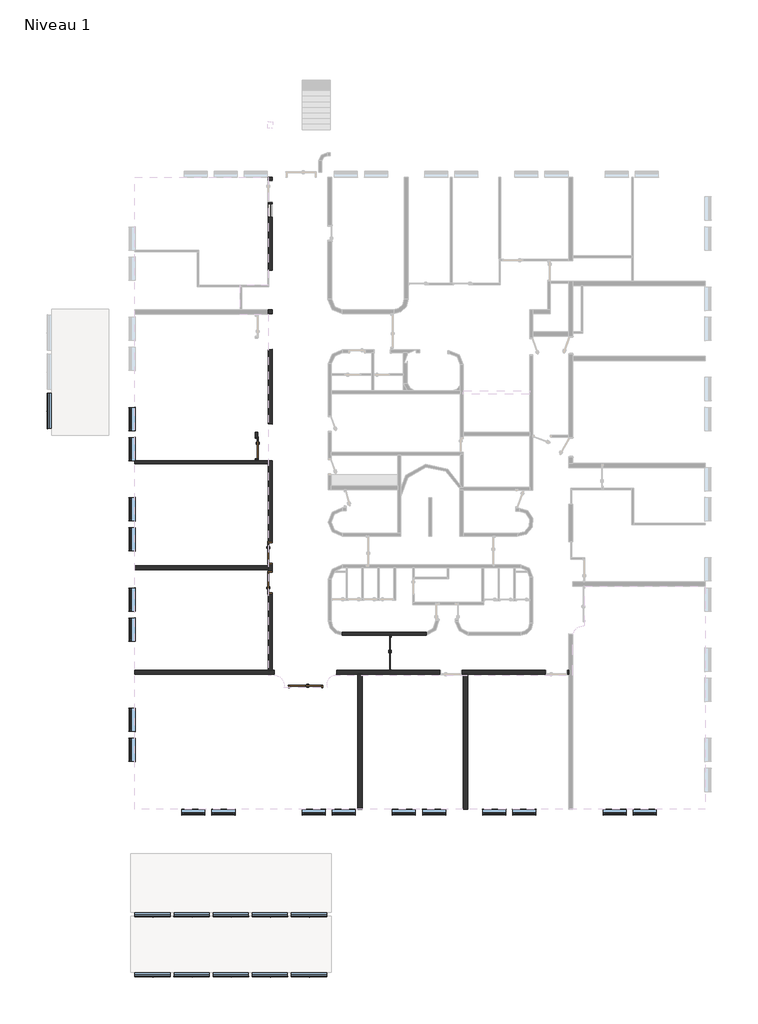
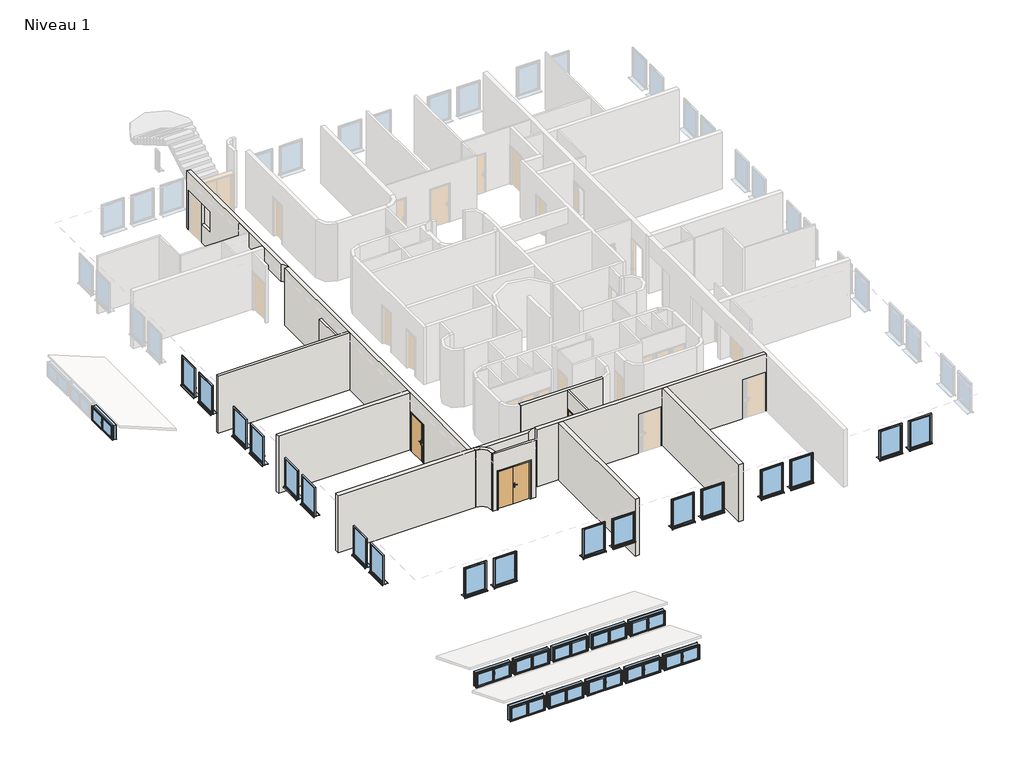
# One storey, part 1 of 5: 29 windows, 11 walls, 5 doors.
"""IFC4 building model written with IfcOpenShell, lengths in millimetres."""

from ifc_helpers import new_model, si_unit, point, frame, frame_2d, origin, place, context, project, spatial, polyline, circle_curve, trimmed, segment, composite_curve, outline, extrude, faceted_brep, transform, mapped, element, save
from ifc_brep_helpers import plane_surface, cylinder_surface, revolved_surface, advanced_brep
from components import door_1_10m_x_2_04m_3b420d45, door_1_10m_x_2_04m_60f23ce3, door_1_10m_x_2_04m_af61bfde, double_r_1_63m_x_2_04m_5d470661, double_r_1_63m_x_2_04m_24f9b1b7, window_115_x_155_cm_24c5beae, window_1750_x_75_784b19aa

model = new_model("IFC4")

# Units and contexts
model_context = context("Model", 3, world=origin())
ifc_project = project(units=[si_unit("LENGTHUNIT", "METRE", prefix="MILLI")], contexts=[model_context])

# Site, building, storey
site = spatial("IfcSite", under=ifc_project)
building = spatial("IfcBuilding", under=site)
storey = spatial("IfcBuildingStorey", under=building, Name="Niveau 1", Elevation=4121.8727639)

# Doors
placement = place(None, origin())
door_1_10m_x_2_04m_shape = door_1_10m_x_2_04m_3b420d45(model_context)
element("IfcDoor", 1, ObjectType="Tierce  160 : 1.10m x 2.04m", at=placement, inside=storey, context=model_context, shape_type="MappedRepresentation", body=[
    mapped(door_1_10m_x_2_04m_shape, transform((-18843.9891705, -8164.1151394, 4121.8727639), x_axis=(7.361836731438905e-11, 1.0, 0.0), y_axis=(-1.0, 7.361836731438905e-11, 0.0), z_axis=(0.0, 0.0, 1.0))),
])
door_1_10m_x_2_04m_2_shape = door_1_10m_x_2_04m_60f23ce3(model_context)
element("IfcDoor", 2, ObjectType="Tierce  160 : 1.10m x 2.04m", at=placement, inside=storey, context=model_context, shape_type="MappedRepresentation", body=[
    mapped(door_1_10m_x_2_04m_2_shape, transform((-19518.1879319, -2959.1151386, 4121.8727639), x_axis=(3.8772042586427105e-11, 1.0, 0.0), y_axis=(-1.0, 3.8772042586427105e-11, 0.0), z_axis=(0.0, 0.0, 1.0))),
])
door_1_10m_x_2_04m_3_shape = door_1_10m_x_2_04m_af61bfde(model_context)
element("IfcDoor", 3, ObjectType="Tierce  160 : 1.10m x 2.04m", at=placement, inside=storey, context=model_context, shape_type="MappedRepresentation", body=[
    mapped(door_1_10m_x_2_04m_3_shape, transform((-18843.9891706, -9654.1151394, 4121.8727639), x_axis=(-7.361836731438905e-11, -1.0, 0.0), y_axis=(1.0, -7.361836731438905e-11, 0.0), z_axis=(0.0, 0.0, 1.0))),
])
double_r_1_63m_x_2_04m_shape = double_r_1_63m_x_2_04m_5d470661(model_context)
element("IfcDoor", 4, ObjectType="Double (R) : 1.63m x 2.04m", at=placement, inside=storey, context=model_context, shape_type="MappedRepresentation", body=[
    mapped(double_r_1_63m_x_2_04m_shape, transform((-17079.3502529, -14837.8529285, 4121.8727639), x_axis=(1.0, 0.0, 0.0), y_axis=(0.0, 1.0, 0.0), z_axis=(0.0, 0.0, 1.0))),
])
double_r_1_63m_x_2_04m_2_shape = double_r_1_63m_x_2_04m_24f9b1b7(model_context)
element("IfcDoor", 5, ObjectType="Double (R) : 1.63m x 2.04m", at=placement, inside=storey, context=model_context, shape_type="MappedRepresentation", body=[
    mapped(double_r_1_63m_x_2_04m_2_shape, transform((-12846.5513349, -13186.7523473, 4121.8727639), x_axis=(0.0, 1.0, 0.0), y_axis=(-1.0, 0.0, 0.0), z_axis=(0.0, 0.0, 1.0))),
])

# Walls
element("IfcWall", 6, ObjectType="@_Générique - Int. 200 mm", at=placement, inside=storey, context=model_context, shape_type="SweptSolid", body=[
    extrude(outline(polyline([(-25593.9891731, -8799.1151394), (-18943.9891706, -8799.1151394), (-18943.9891706, -8999.1151394), (-25593.9891731, -8999.1151394), (-25593.9891731, -8799.1151394)])), frame((0.0, 0.0, 4121.8727639), z_axis=(0.0, 0.0, 1.0), x_axis=(1.0, 0.0, 0.0)), (0.0, 0.0, 1.0), 3045.4355104),
])
element("IfcWall", 7, ObjectType="@_Générique - Int. 120 mm", at=placement, inside=storey, context=model_context, shape_type="Brep", body=[
    faceted_brep([(-19458.1879319, -2149.1151386, 4121.8727639), (-19458.1879319, -2149.1151386, 7167.3082742), (-19458.1879319, -2349.0637014, 7167.3082742), (-19458.1879319, -3574.1151386, 7167.3082742), (-19458.1879319, -3574.1151386, 4121.8727639), (-19458.1879319, -3519.1151386, 4121.8727639), (-19458.1879319, -3519.1151386, 6196.8727639), (-19458.1879319, -2399.1151386, 6196.8727639), (-19458.1879319, -2399.1151386, 4121.8727639), (-19458.1879319, -2349.0637014, 4121.8727639), (-19578.1879319, -2149.1151386, 7167.3082742), (-19578.1879319, -2149.1151386, 4121.8727639), (-19578.1879319, -2399.1151386, 4121.8727639), (-19578.1879319, -2399.1151386, 6196.8727639), (-19578.1879319, -3519.1151386, 6196.8727639), (-19578.1879319, -3519.1151386, 4121.8727639), (-19578.1879319, -3574.1151386, 4121.8727639), (-19578.1879319, -3574.1151386, 7167.3082742)], [[[0, 1, 2, 3, 4, 5, 6, 7, 8, 9]], [[10, 11, 12, 13, 14, 15, 16, 17]], [[11, 0, 9, 8, 12]], [[4, 16, 15, 5]], [[1, 0, 11, 10]], [[3, 2, 1, 10, 17]], [[4, 3, 17, 16]], [[7, 13, 12, 8]], [[13, 7, 6, 14]], [[14, 6, 5, 15]]]),
])
element("IfcWall", 8, ObjectType="@_Générique - Int. 100 mm", at=placement, inside=storey, context=model_context, shape_type="AdvancedBrep", body=[
    advanced_brep(
    [(-15979.135642, -14887.8529285, 7167.3082742), (-18169.2802234, -14887.8529285, 7167.3082742), (-18169.2802234, -14887.8529285, 4121.8727639), (-17929.3502529, -14887.8529285, 4121.8727639), (-17929.3502529, -14887.8529285, 6196.8727639), (-16229.3502529, -14887.8529285, 6196.8727639), (-16229.3502529, -14887.8529285, 4121.8727639), (-15979.135642, -14887.8529285, 4121.8727639), (-18148.1747332, -14787.8529285, 7167.3082742), (-17947.3580921, -14787.8529285, 7167.3082742), (-16201.4770483, -14787.8529285, 7167.3082742), (-16000.6069775, -14787.8529285, 7167.3082742), (-16000.6069775, -14787.8529285, 4121.8727639), (-16201.4770483, -14787.8529285, 4121.8727639), (-16229.3502529, -14787.8529285, 4121.8727639), (-16229.3502529, -14787.8529285, 6196.8727639), (-17929.3502529, -14787.8529285, 6196.8727639), (-17929.3502529, -14787.8529285, 4121.8727639), (-17947.3580921, -14787.8529285, 4121.8727639), (-18148.1747332, -14787.8529285, 4121.8727639)],
    [
        (0, 1),
        (1, 2),
        (2, 3),
        (3, 4),
        (4, 5),
        (5, 6),
        (6, 7),
        (7, 0),
        (8, 9),
        (9, 10),
        (10, 11),
        (11, 12),
        (12, 13),
        (13, 14),
        (14, 15),
        (15, 16),
        (16, 17),
        (17, 18),
        (18, 19),
        (19, 8),
        (2, 19, circle_curve(frame((-18650.3061191, -14734.1028469, 4121.8727639), z_axis=(0.0, 0.0, 1.0), x_axis=(0.976975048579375, -0.21335359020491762, 0.0)), 505.0)),
        (17, 3),
        (12, 7, circle_curve(frame((-15498.6625765, -14732.3838531, 4121.8727639), z_axis=(0.0, 0.0, 1.0), x_axis=(-0.9591390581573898, 0.2829350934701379, 0.0)), 505.0)),
        (6, 14),
        (0, 11, circle_curve(frame((-15498.6625765, -14732.3838531, 7167.3082742), z_axis=(0.0, 0.0, -1.0), x_axis=(-0.9591390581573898, 0.2829350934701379, 0.0)), 505.0)),
        (8, 1, circle_curve(frame((-18650.3061191, -14734.1028469, 7167.3082742), z_axis=(0.0, 0.0, -1.0), x_axis=(0.976975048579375, -0.21335359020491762, 0.0)), 505.0)),
        (5, 15),
        (4, 16),
    ],
    [
        plane_surface(frame((-18622.3785172, -14887.8529285, 4121.8727639), z_axis=(0.0, -1.0, 0.0), x_axis=(1.0, 0.0, 0.0))),
        plane_surface(frame((-18622.3785172, -14787.8529285, 4121.8727639), z_axis=(0.0, 1.0, 0.0), x_axis=(-1.0, 0.0, 0.0))),
        plane_surface(frame((-18054.2684353, -14887.8529285, 4121.8727639), z_axis=(0.0, 0.0, -1.0), x_axis=(0.0, 1.0, 0.0))),
        plane_surface(frame((-25618.9891748, 10570.8848592, 7167.3082742), z_axis=(0.0, 0.0, 1.0), x_axis=(0.0, 1.0, 0.0))),
        plane_surface(frame((-16229.3502529, -16311.8529285, 4121.8727639), z_axis=(-1.0, 0.0, 0.0), x_axis=(0.0, 1.0, 0.0))),
        plane_surface(frame((-16229.3502529, -16311.8529285, 6196.8727639), z_axis=(0.0, 0.0, -1.0), x_axis=(0.0, 1.0, 0.0))),
        plane_surface(frame((-17929.3502529, -16311.8529285, 6196.8727639), z_axis=(1.0, 0.0, 0.0), x_axis=(0.0, 1.0, 0.0))),
        revolved_surface(polyline([(-18156.933719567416, -14841.846409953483, 4121.8727639), (-18156.933719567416, -14841.846409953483, 7167.3082742)]), (-18650.3061191, -14734.1028469, 4121.8727639), (0.0, 0.0, -1.0)),
        revolved_surface(polyline([(-15983.027800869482, -14589.501630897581, 4121.8727639), (-15983.027800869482, -14589.501630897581, 7167.308274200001)]), (-15498.6625765, -14732.3838531, 4121.8727639), (0.0, 0.0, -1.0000000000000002)),
    ],
    [
        (0, [[1, 2, 3, 4, 5, 6, 7, 8]]),
        (1, [[9, 10, 11, 12, 13, 14, 15, 16, 17, 18, 19, 20]]),
        (2, [[21, -19, -18, 22, -3]]),
        (2, [[23, -7, 24, -14, -13]]),
        (3, [[-1, 25, -11, -10, -9, 26]]),
        (4, [[27, -15, -24, -6]]),
        (5, [[-27, -5, 28, -16]]),
        (6, [[-28, -4, -22, -17]]),
        (7, [[-2, -26, -20, -21]]),
        (8, [[-8, -23, -12, -25]]),
    ],
),
])
element("IfcWall", 9, ObjectType="@_Générique - Int. 70 mm", at=placement, inside=storey, context=model_context, shape_type="SweptSolid", body=[
    extrude(outline(polyline([(-14029.1151398, 7167.3082742), (-12269.1151367, 7167.3082742), (-12269.1151367, 4121.8727639), (-12336.7523473, 4121.8727639), (-12336.7523473, 6196.8727639), (-14029.1151398, 6196.8727639), (-14029.1151398, 7167.3082742)])), frame((-12881.5513349, 0.0, 0.0), z_axis=(1.0, 0.0, 0.0), x_axis=(0.0, 1.0, 0.0)), (0.0, 0.0, 1.0), 70.0),
])
element("IfcWall", 10, ObjectType="@_Générique - Int. 200 mm", at=placement, inside=storey, context=model_context, shape_type="SweptSolid", body=[
    extrude(outline(composite_curve([segment(polyline([(-18647.0868744, -14229.1131079), (-18645.8119261, -14029.1171717)]), True, "CONTINUOUS"), segment(trimmed(circle_curve(frame_2d((-18650.3061191, -14734.1028469)), 705.0), [point((-18645.8119261, -14029.1171717))], [point((-17947.3580921, -14787.8529285))], False, "CARTESIAN"), True, "CONTINUOUS"), segment(polyline([(-17947.3580921, -14787.8529285), (-18148.1747332, -14787.8529285)]), True, "CONTINUOUS"), segment(trimmed(circle_curve(frame_2d((-18650.3061191, -14734.1028469)), 505.0), [point((-18148.1747332, -14787.8529285))], [point((-18647.0868744, -14229.1131079))], True, "CARTESIAN"), True, "CONTINUOUS")], self_intersect=False)), frame((0.0, 0.0, 4121.8727639), z_axis=(0.0, 0.0, 1.0), x_axis=(1.0, 0.0, 0.0)), (0.0, 0.0, 1.0), 3045.4355104),
])
element("IfcWall", 11, ObjectType="Ext. Voile BA 150", at=placement, inside=storey, context=model_context, shape_type="Brep", body=[
    faceted_brep([(-18943.9891702, -3574.1151386, 7167.3082742), (-18943.9891702, -3574.1151386, 6252.8724014), (-18943.9891702, -3574.1151386, 4121.8727639), (-19458.1879319, -3574.1151386, 4121.8727639), (-19578.1879319, -3574.1151386, 4121.8727639), (-25593.9891731, -3574.1151386, 4121.8727639), (-25593.9891731, -3574.1151386, 7167.3082742), (-19578.1879319, -3574.1151386, 7167.3082742), (-19458.1879319, -3574.1151386, 7167.3082742), (-18943.9891702, -3724.1151386, 4121.8727639), (-18943.9891702, -3724.1151386, 7167.3082742), (-25593.9891731, -3724.1151386, 7167.3082742), (-25593.9891731, -3724.1151386, 4121.8727639)], [[[0, 1, 2, 3, 4, 5, 6, 7, 8]], [[9, 10, 11, 12]], [[5, 4, 3, 2, 9, 12]], [[6, 5, 12, 11]], [[0, 8, 7, 6, 11, 10]], [[0, 10, 9, 2, 1]]]),
])
element("IfcWall", 12, ObjectType="Ext. Voile BA 150", at=placement, inside=storey, context=model_context, shape_type="Brep", body=[
    faceted_brep([(-11059.3852226, -12119.1151369, 4121.8727639), (-15243.9891688, -12119.1151366, 4121.8727639), (-15243.9891688, -12119.1151366, 7167.3082742), (-11059.3852226, -12119.1151369, 7167.3082742), (-11053.2032702, -12269.1151369, 4121.8727639), (-11053.2032702, -12269.1151369, 7167.3082742), (-12811.5513349, -12269.1151367, 7167.3082742), (-12881.5513349, -12269.1151367, 7167.3082742), (-15243.9891688, -12269.1151366, 7167.3082742), (-15243.9891688, -12269.1151366, 4121.8727639), (-12881.5513349, -12269.1151367, 4121.8727639), (-12811.5513349, -12269.1151367, 4121.8727639)], [[[0, 1, 2, 3]], [[4, 5, 6, 7, 8, 9, 10, 11]], [[3, 2, 8, 7, 6, 5]], [[1, 0, 4, 11, 10, 9]], [[2, 1, 9, 8]], [[0, 3, 5, 4]]]),
])
element("IfcWall", 13, ObjectType="Ext. Voile BA 200", at=placement, inside=storey, context=model_context, shape_type="AdvancedBrep", body=[
    advanced_brep(
    [(-18943.989171, -14029.1151398, 4121.8727639), (-18943.989171, -14029.1151398, 7167.3082742), (-18943.9891706, -8999.1151394, 7167.3082742), (-18943.9891706, -8799.1151394, 7167.3082742), (-18943.9891702, -3724.1151386, 7167.3082742), (-18943.9891702, -3574.1151386, 7167.3082742), (-18943.9891698, 1960.5171079, 7167.3082742), (-18943.9891698, 1960.5171079, 4121.8727639), (-18943.9891701, -1727.5708002, 4121.8727639), (-18943.9891701, -1727.5708002, 6252.8724014), (-18943.9891702, -3574.1151386, 6252.8724014), (-18943.9891702, -3574.1151386, 4121.8727639), (-18943.9891702, -3724.1151386, 4121.8727639), (-18943.9891705, -7604.1151394, 4121.8727639), (-18943.9891705, -7604.1151394, 6196.8727639), (-18943.9891706, -8724.1151394, 6196.8727639), (-18943.9891706, -8724.1151394, 4121.8727639), (-18943.9891706, -8799.1151394, 4121.8727639), (-18943.9891706, -8999.1151394, 4121.8727639), (-18943.9891706, -9094.1151394, 4121.8727639), (-18943.9891706, -9094.1151394, 6196.8727639), (-18943.9891707, -10214.1151394, 6196.8727639), (-18943.9891707, -10214.1151394, 4121.8727639), (-18943.9891692, 10570.8848592, 7167.3082742), (-18943.9891692, 10570.8848592, 4121.8727639), (-18943.9891692, 10415.8848592, 4121.8727639), (-18943.9891692, 10415.8848592, 6196.8727639), (-18943.9891693, 9295.8848592, 6196.8727639), (-18943.9891693, 9295.8848592, 4121.8727639), (-18943.9891695, 5935.4431147, 4121.8727639), (-18943.9891695, 5935.4431147, 6406.2116759), (-18943.9891696, 3960.8848612, 6406.2116759), (-18943.9891696, 3960.8848612, 4121.8727639), (-18943.9891697, 3750.8848612, 4121.8727639), (-18943.9891697, 3750.8848612, 6252.8724014), (-18943.9891698, 2332.3470203, 6252.8724014), (-18943.9891698, 2332.3470203, 7167.3082742), (-18943.9891697, 3740.8848612, 7167.3082742), (-18943.9891696, 3960.8848612, 7167.3082742), (-18943.9891693, 8560.8848592, 5121.8727639), (-18943.9891693, 9240.8848592, 5121.8727639), (-18943.9891693, 9240.8848592, 6206.8727639), (-18943.9891693, 8560.8848592, 6206.8727639), (-18743.989171, -14029.1151398, 7167.3082742), (-18743.989171, -14029.1151398, 4121.8727639), (-18743.9891707, -10214.1151394, 4121.8727639), (-18743.9891707, -10214.1151394, 6196.8727639), (-18743.9891706, -9094.1151394, 6196.8727639), (-18743.9891706, -9094.1151394, 4121.8727639), (-18743.9891706, -8724.1151394, 4121.8727639), (-18743.9891706, -8724.1151394, 6196.8727639), (-18743.9891705, -7604.1151394, 6196.8727639), (-18743.9891705, -7604.1151394, 4121.8727639), (-18743.9891702, -3574.1151387, 4121.8727639), (-18743.9891702, -3574.1151387, 6252.8724014), (-18743.9891701, -1749.0023753, 6252.8724014), (-18743.9891701, -1749.0023753, 4121.8727639), (-18743.9891698, 1988.4437617, 4121.8727639), (-18743.9891698, 1988.4437617, 6252.8724014), (-18743.9891697, 3750.8848612, 6252.8724014), (-18743.9891697, 3750.8848612, 4121.8727639), (-18743.9891696, 3960.8848612, 4121.8727639), (-18743.9891696, 3960.8848612, 6406.2116759), (-18743.9891695, 5935.4431147, 6406.2116759), (-18743.9891695, 5935.4431147, 4121.8727639), (-18743.9891693, 9295.8848592, 4121.8727639), (-18743.9891693, 9295.8848592, 6196.8727639), (-18743.9891692, 10415.8848592, 6196.8727639), (-18743.9891692, 10415.8848592, 4121.8727639), (-18743.9891692, 10570.8848592, 4121.8727639), (-18743.9891692, 10570.8848592, 7167.3082742), (-18743.9891698, 1988.4437617, 7167.3082742), (-18743.9891693, 9240.8848592, 5121.8727639), (-18743.9891693, 8560.8848592, 5121.8727639), (-18743.9891693, 8560.8848592, 6206.8727639), (-18743.9891693, 9240.8848592, 6206.8727639), (-18903.9891724, 5935.4431147, 4121.8727639), (-18813.9891722, 9240.8848592, 5121.8727639), (-18813.9891722, 9240.8848592, 6206.8727639)],
    [
        (0, 1),
        (1, 2),
        (2, 3),
        (3, 4),
        (4, 5),
        (5, 6),
        (6, 7),
        (7, 8),
        (8, 9),
        (9, 10),
        (10, 11),
        (11, 12),
        (12, 13),
        (13, 14),
        (14, 15),
        (15, 16),
        (16, 17),
        (17, 18),
        (18, 19),
        (19, 20),
        (20, 21),
        (21, 22),
        (22, 0),
        (23, 24),
        (24, 25),
        (25, 26),
        (26, 27),
        (27, 28),
        (28, 29),
        (29, 30),
        (30, 31),
        (31, 32),
        (32, 33),
        (33, 34),
        (34, 35),
        (35, 36),
        (36, 37),
        (37, 38),
        (38, 23),
        (39, 40),
        (40, 41),
        (41, 42),
        (42, 39),
        (43, 44),
        (44, 45),
        (45, 46),
        (46, 47),
        (47, 48),
        (48, 49),
        (49, 50),
        (50, 51),
        (51, 52),
        (52, 53),
        (53, 54),
        (54, 55),
        (55, 56),
        (56, 57),
        (57, 58),
        (58, 59),
        (59, 60),
        (60, 61),
        (61, 62),
        (62, 63),
        (63, 64),
        (64, 65),
        (65, 66),
        (66, 67),
        (67, 68),
        (68, 69),
        (69, 70),
        (70, 71),
        (71, 43),
        (72, 73),
        (73, 74),
        (74, 75),
        (75, 72),
        (0, 44),
        (43, 1),
        (23, 70),
        (69, 24),
        (36, 71, circle_curve(frame((-19466.7134088, 1798.244569, 7167.3082742), z_axis=(0.0, 0.0, -1.0), x_axis=(0.0, -1.0, 0.0)), 747.3326292)),
        (71, 6),
        (68, 25),
        (64, 76),
        (76, 29),
        (28, 65),
        (63, 30),
        (62, 31),
        (32, 61),
        (60, 33),
        (59, 34),
        (58, 35, circle_curve(frame((-19466.7134088, 1798.244569, 6252.8724014), z_axis=(0.0, 0.0, 1.0), x_axis=(0.0, -1.0, 0.0)), 747.3326292)),
        (7, 57),
        (56, 8),
        (71, 58),
        (9, 55),
        (54, 10),
        (53, 11),
        (52, 13),
        (22, 45),
        (16, 49),
        (48, 19),
        (67, 26),
        (66, 27),
        (39, 73),
        (72, 77),
        (77, 40),
        (75, 78),
        (78, 41),
        (74, 42),
        (51, 14),
        (50, 15),
        (21, 46),
        (20, 47),
    ],
    [
        plane_surface(frame((-18943.9891691, 10695.8848592, 4121.8727639), z_axis=(-1.0, 7.361836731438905e-11, 0.0), x_axis=(-7.361836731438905e-11, -1.0, 0.0))),
        plane_surface(frame((-18743.9891691, 10695.8848592, 4121.8727639), z_axis=(1.0, -7.361836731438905e-11, 0.0), x_axis=(7.361836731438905e-11, 1.0, 0.0))),
        plane_surface(frame((-25718.9891731, -14029.1151398, 4121.8727639), z_axis=(0.0, -1.0, 0.0), x_axis=(-1.0, 0.0, 0.0))),
        plane_surface(frame((-25323.9891749, 10570.8848592, 4121.8727639), z_axis=(0.0, 1.0, 0.0), x_axis=(1.0, 0.0, 0.0))),
        plane_surface(frame((-25618.9891748, 10570.8848592, 7167.3082742), z_axis=(0.0, 0.0, 1.0), x_axis=(0.0, 1.0, 0.0))),
        plane_surface(frame((-18943.9891691, 10695.8848592, 4121.8727639), z_axis=(0.0, 0.0, -1.0), x_axis=(1.0, -7.361330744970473e-11, 0.0))),
        plane_surface(frame((-18943.9891695, 5935.4431147, 4121.8727639), z_axis=(-7.361872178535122e-11, -1.0, 0.0), x_axis=(1.0, -7.361872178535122e-11, 0.0))),
        plane_surface(frame((-18943.9891695, 5935.4431147, 6406.2116759), z_axis=(0.0, 0.0, -1.0), x_axis=(1.0, -7.361872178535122e-11, 0.0))),
        plane_surface(frame((-18943.9891697, 3850.8848612, 4121.8727639), z_axis=(0.0, 0.0, -1.0), x_axis=(1.0, -7.362413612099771e-11, 0.0))),
        plane_surface(frame((-18943.9891697, 3750.8848612, 4121.8727639), z_axis=(-7.361330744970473e-11, -1.0, 0.0), x_axis=(1.0, -7.361330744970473e-11, 0.0))),
        plane_surface(frame((-18943.9891697, 3750.8848612, 6252.8724014), z_axis=(0.0, 0.0, -1.0), x_axis=(1.0, -7.361330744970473e-11, 0.0))),
        plane_surface(frame((-18943.9891698, 1975.0327329, 4121.8727639), z_axis=(0.0, 0.0, -1.0), x_axis=(1.0, -7.361330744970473e-11, 0.0))),
        plane_surface(frame((-19158.9891724, 3960.8848613, 4121.8727639), z_axis=(3.876859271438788e-11, 1.0, 0.0), x_axis=(-1.0, 3.876859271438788e-11, 0.0))),
        plane_surface(frame((-18743.9891698, 1988.4437617, 4121.8727639), z_axis=(-0.13829161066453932, 0.9903915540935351, 0.0), x_axis=(-0.9903915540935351, -0.13829161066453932, 0.0))),
        revolved_surface(polyline([(-19466.7134088, 1050.9119397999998, 7167.3082742), (-19466.7134088, 1050.9119397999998, 6252.8724014)]), (-19466.7134088, 1798.244569, 4121.8727639), (0.0, 0.0, 1.0)),
        plane_surface(frame((-18943.9891701, -1738.7070922, 6252.8724014), z_axis=(0.0, 0.0, -1.0), x_axis=(1.0, -7.361330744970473e-11, 0.0))),
        plane_surface(frame((-18943.9891702, -3574.1151386, 6252.8724014), z_axis=(7.361330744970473e-11, 1.0, 0.0), x_axis=(1.0, -7.361330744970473e-11, 0.0))),
        plane_surface(frame((-18943.9891702, -3574.1151386, 4121.8727639), z_axis=(0.0, 0.0, -1.0), x_axis=(1.0, -7.361330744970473e-11, 0.0))),
        plane_surface(frame((-17419.9891692, 10415.8848591, 4121.8727639), z_axis=(-7.361862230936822e-11, -1.0, 0.0), x_axis=(-1.0, 7.361862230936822e-11, 0.0))),
        plane_surface(frame((-17419.9891692, 10415.8848591, 6196.8727639), z_axis=(0.0, 0.0, -1.0), x_axis=(-1.0, 7.361862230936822e-11, 0.0))),
        plane_surface(frame((-17419.9891693, 9295.8848591, 6196.8727639), z_axis=(7.361826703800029e-11, 1.0, 0.0), x_axis=(-1.0, 7.361826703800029e-11, 0.0))),
        plane_surface(frame((-18943.9891693, 8560.8848592, 5121.8727639), z_axis=(0.0, 0.0, 1.0), x_axis=(1.0, -7.361330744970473e-11, 0.0))),
        plane_surface(frame((-18943.9891693, 9240.8848592, 5121.8727639), z_axis=(-7.361330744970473e-11, -1.0, 0.0), x_axis=(1.0, -7.361330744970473e-11, 0.0))),
        plane_surface(frame((-18943.9891693, 9240.8848592, 6206.8727639), z_axis=(0.0, 0.0, -1.0), x_axis=(1.0, -7.361330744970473e-11, 0.0))),
        plane_surface(frame((-18943.9891693, 8560.8848592, 6206.8727639), z_axis=(7.361330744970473e-11, 1.0, 0.0), x_axis=(1.0, -7.361330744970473e-11, 0.0))),
        plane_surface(frame((-18943.9891701, -1727.5708002, 4121.8727639), z_axis=(-0.10654788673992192, -0.994307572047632, 0.0), x_axis=(0.994307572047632, -0.10654788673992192, 0.0))),
        plane_surface(frame((-17419.9891705, -7604.1151395, 4121.8727639), z_axis=(-7.361826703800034e-11, -1.0, 0.0), x_axis=(-1.0, 7.361826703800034e-11, 0.0))),
        plane_surface(frame((-17419.9891705, -7604.1151395, 6196.8727639), z_axis=(0.0, 0.0, -1.0), x_axis=(-1.0, 7.361826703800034e-11, 0.0))),
        plane_surface(frame((-17419.9891706, -8724.1151395, 6196.8727639), z_axis=(7.361826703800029e-11, 1.0, 0.0), x_axis=(-1.0, 7.361826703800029e-11, 0.0))),
        plane_surface(frame((-20467.9891707, -10214.1151393, 4121.8727639), z_axis=(7.361862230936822e-11, 1.0, 0.0), x_axis=(1.0, -7.361862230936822e-11, 0.0))),
        plane_surface(frame((-20467.9891707, -10214.1151393, 6196.8727639), z_axis=(0.0, 0.0, -1.0), x_axis=(1.0, -7.361862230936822e-11, 0.0))),
        plane_surface(frame((-20467.9891706, -9094.1151393, 6196.8727639), z_axis=(-7.36182670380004e-11, -1.0, 0.0), x_axis=(1.0, -7.36182670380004e-11, 0.0))),
    ],
    [
        (0, [[1, 2, 3, 4, 5, 6, 7, 8, 9, 10, 11, 12, 13, 14, 15, 16, 17, 18, 19, 20, 21, 22, 23]]),
        (0, [[24, 25, 26, 27, 28, 29, 30, 31, 32, 33, 34, 35, 36, 37, 38, 39], [40, 41, 42, 43]]),
        (1, [[44, 45, 46, 47, 48, 49, 50, 51, 52, 53, 54, 55, 56, 57, 58, 59, 60, 61, 62, 63, 64, 65, 66, 67, 68, 69, 70, 71, 72], [73, 74, 75, 76]]),
        (2, [[-1, 77, -44, 78]]),
        (3, [[-24, 79, -70, 80]]),
        (4, [[-79, -39, -38, -37, 81, -71]]),
        (4, [[-78, -72, 82, -6, -5, -4, -3, -2]]),
        (5, [[-80, -69, 83, -25]]),
        (5, [[84, 85, -29, 86, -65]]),
        (6, [[-30, -85, -84, -64, 87]]),
        (7, [[-31, -87, -63, 88]]),
        (8, [[-33, 89, -61, 90]]),
        (9, [[-34, -90, -60, 91]]),
        (10, [[-59, 92, -35, -91]]),
        (11, [[-8, 93, -57, 94]]),
        (12, [[-32, -88, -62, -89]]),
        (13, [[-93, -7, -82, 95, -58]]),
        (14, [[-95, -81, -36, -92]]),
        (15, [[-10, 96, -55, 97]]),
        (16, [[-11, -97, -54, 98]]),
        (17, [[-98, -53, 99, -13, -12]]),
        (17, [[-77, -23, 100, -45]]),
        (17, [[101, -49, 102, -19, -18, -17]]),
        (18, [[103, -26, -83, -68]]),
        (19, [[-103, -67, 104, -27]]),
        (20, [[-104, -66, -86, -28]]),
        (21, [[-40, 105, -73, 106, 107]]),
        (22, [[-41, -107, -106, -76, 108, 109]]),
        (23, [[-42, -109, -108, -75, 110]]),
        (24, [[-43, -110, -74, -105]]),
        (25, [[-9, -94, -56, -96]]),
        (26, [[-14, -99, -52, 111]]),
        (27, [[-15, -111, -51, 112]]),
        (28, [[-16, -112, -50, -101]]),
        (29, [[113, -46, -100, -22]]),
        (30, [[-113, -21, 114, -47]]),
        (31, [[-114, -20, -102, -48]]),
    ],
),
])
element("IfcWall", 14, ObjectType="Ext. Voile BA 200", at=placement, inside=storey, context=model_context, shape_type="AdvancedBrep", body=[
    advanced_brep(
    [(-25593.9891731, -14229.1151398, 4121.8727639), (-18646.1428435, -14229.1151398, 4121.8727639), (-18646.1428435, -14229.1151398, 6221.8727639), (-18203.6490701, -14229.1151398, 6221.8727639), (-18203.6490701, -14229.1151398, 6421.8727639), (-15992.3685642, -14229.1151398, 6421.8727639), (-15992.3685642, -14229.1151398, 7167.3082742), (-25593.9891731, -14229.1151398, 7167.3082742), (-18646.1428435, -14029.1151398, 4121.8727639), (-18743.989171, -14029.1151398, 4121.8727639), (-18943.989171, -14029.1151398, 4121.8727639), (-25593.9891731, -14029.1151398, 4121.8727639), (-25593.9891731, -14029.1151398, 7167.3082742), (-18943.989171, -14029.1151398, 7167.3082742), (-18743.989171, -14029.1151398, 7167.3082742), (-15548.0398685, -14029.1151398, 7167.3082742), (-15548.0398685, -14029.1151398, 6221.8727639), (-18646.1428435, -14029.1151398, 6221.8727639), (-15737.6178307, -14069.1151394, 6421.8727639), (-15737.6178307, -14069.1151394, 6221.8727639), (-18646.1428435, -14069.1151394, 6221.8727639), (-18646.1428435, -14069.583646, 6221.8727639), (-18647.8913338, -14069.1151394, 6221.8727639), (-18647.8913338, -14069.1151394, 6421.8727639), (-18646.1428435, -14069.583646, 6421.8727639)],
    [
        (0, 1),
        (1, 2),
        (2, 3),
        (3, 4),
        (4, 5),
        (5, 6),
        (6, 7),
        (7, 0),
        (8, 9),
        (9, 10),
        (10, 11),
        (11, 12),
        (12, 13),
        (13, 14),
        (14, 15),
        (15, 16),
        (16, 17),
        (17, 8),
        (7, 12),
        (11, 0),
        (6, 15, circle_curve(frame((-15498.6625765, -14732.3838531, 7167.3082742), z_axis=(0.0, 0.0, -1.0), x_axis=(-0.9591390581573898, 0.2829350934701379, 0.0)), 705.0)),
        (5, 18, circle_curve(frame((-15498.6625765, -14732.3838531, 6421.8727639), z_axis=(0.0, 0.0, -1.0), x_axis=(-0.9591390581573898, 0.2829350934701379, 0.0)), 705.0)),
        (18, 19),
        (19, 16, circle_curve(frame((-15498.6625765, -14732.3838531, 6221.8727639), z_axis=(0.0, 0.0, -1.0), x_axis=(-0.9591390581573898, 0.2829350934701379, 0.0)), 705.0)),
        (8, 1),
        (17, 20),
        (20, 21),
        (21, 2),
        (19, 20),
        (21, 3, circle_curve(frame((-18650.3061191, -14774.5713531, 6221.8727639), z_axis=(0.0, 0.0, -1.0), x_axis=(1.0, 0.0, 0.0)), 705.0)),
        (22, 21),
        (20, 22),
        (23, 18),
        (4, 24, circle_curve(frame((-18650.3061191, -14774.5713531, 6421.8727639), z_axis=(0.0, 0.0, 1.0), x_axis=(1.0, 0.0, 0.0)), 705.0)),
        (24, 23),
        (21, 24),
        (22, 23),
    ],
    [
        plane_surface(frame((-25718.9891731, -14229.1151398, 4121.8727639), z_axis=(0.0, -1.0, 0.0), x_axis=(1.0, 0.0, 0.0))),
        plane_surface(frame((-25718.9891731, -14029.1151398, 4121.8727639), z_axis=(0.0, 1.0, 0.0), x_axis=(-1.0, 0.0, 0.0))),
        plane_surface(frame((-25593.9891731, -20794.6352217, 4121.8727639), z_axis=(-1.0, 0.0, 0.0), x_axis=(0.0, 1.0, 0.0))),
        plane_surface(frame((-25618.9891748, 10570.8848592, 7167.3082742), z_axis=(0.0, 0.0, 1.0), x_axis=(0.0, 1.0, 0.0))),
        revolved_surface(polyline([(-16174.85561250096, -14532.914612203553, 7167.308274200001), (-16174.85561250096, -14532.914612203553, 6221.872763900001)]), (-15498.6625765, -14732.3838531, 4121.8727639), (0.0, 0.0, 1.0000000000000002)),
        plane_surface(frame((-25718.9891731, -14229.1151398, 4121.8727639), z_axis=(0.0, 0.0, -1.0), x_axis=(0.0, 1.0, 0.0))),
        plane_surface(frame((-18646.1428435, -14229.1151398, 4121.8727639), z_axis=(1.0, 0.0, 0.0), x_axis=(0.0, 1.0, 0.0))),
        plane_surface(frame((-18646.1428435, -14229.1151398, 6221.8727639), z_axis=(0.0, 0.0, -1.0), x_axis=(0.0, 1.0, 0.0))),
        plane_surface(frame((-17945.4312368, -14887.8529285, 6221.8727639), z_axis=(0.0, 0.0, 1.0), x_axis=(-1.0, 0.0, 0.0))),
        plane_surface(frame((-17945.4312368, -14887.8529285, 6421.8727639), z_axis=(0.0, 0.0, -1.0), x_axis=(1.0, 0.0, 0.0))),
        cylinder_surface(frame((-18650.3061191, -14774.5713531, 6421.8727639), z_axis=(0.0, 0.0, 1.0), x_axis=(1.0, 0.0, 0.0)), 705.0),
        plane_surface(frame((-18646.1428435, -14069.583646, 6221.8727639), z_axis=(0.25881904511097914, 0.9659258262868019, 0.0), x_axis=(0.0, 0.0, 1.0))),
        plane_surface(frame((-18647.8913338, -14069.1151394, 6221.8727639), z_axis=(0.0, -1.0, 0.0), x_axis=(0.0, 0.0, 1.0))),
    ],
    [
        (0, [[1, 2, 3, 4, 5, 6, 7, 8]]),
        (1, [[9, 10, 11, 12, 13, 14, 15, 16, 17, 18]]),
        (2, [[-8, 19, -12, 20]]),
        (3, [[-19, -7, 21, -15, -14, -13]]),
        (4, [[-21, -6, 22, 23, 24, -16]]),
        (5, [[-1, -20, -11, -10, -9, 25]]),
        (6, [[-2, -25, -18, 26, 27, 28]]),
        (7, [[-17, -24, 29, -26]]),
        (7, [[-3, -28, 30]]),
        (8, [[31, -27, 32]]),
        (9, [[33, -22, -5, 34, 35]]),
        (10, [[36, -34, -4, -30]]),
        (11, [[-31, 37, -35, -36]]),
        (12, [[-33, -37, -32, -29, -23]]),
    ],
),
    advanced_brep(
    [(-3943.989174, -14229.1151398, 4121.8727639), (-3943.989174, -14229.1151398, 7167.3082742), (-8993.9891732, -14229.1151398, 7167.3082742), (-9213.9891732, -14229.1151398, 7167.3082742), (-14243.9891736, -14229.1151398, 7167.3082742), (-14463.9891736, -14229.1151398, 7167.3082742), (-15540.4429818, -14229.1151398, 7167.3082742), (-15540.4429818, -14229.1151398, 4121.8727639), (-14463.9891736, -14229.1151398, 4121.8727639), (-14243.9891736, -14229.1151398, 4121.8727639), (-10388.9891732, -14229.1151398, 4121.8727639), (-10388.9891732, -14229.1151398, 6196.8727639), (-9268.9891732, -14229.1151398, 6196.8727639), (-9268.9891732, -14229.1151398, 4121.8727639), (-9213.9891732, -14229.1151398, 4121.8727639), (-8993.9891732, -14229.1151398, 4121.8727639), (-5133.9891744, -14229.1151398, 4121.8727639), (-5133.9891744, -14229.1151398, 6196.8727639), (-4013.9891744, -14229.1151398, 6196.8727639), (-4013.9891744, -14229.1151398, 4121.8727639), (-3943.989174, -14029.1151398, 7167.3082742), (-3943.989174, -14029.1151398, 4121.8727639), (-4013.9891744, -14029.1151398, 4121.8727639), (-4013.9891744, -14029.1151398, 6196.8727639), (-5133.9891744, -14029.1151398, 6196.8727639), (-5133.9891744, -14029.1151398, 4121.8727639), (-9268.9891732, -14029.1151398, 4121.8727639), (-9268.9891732, -14029.1151398, 6196.8727639), (-10388.9891732, -14029.1151398, 6196.8727639), (-10388.9891732, -14029.1151398, 4121.8727639), (-12811.5513349, -14029.1151398, 4121.8727639), (-12811.5513349, -14029.1151398, 6196.8727639), (-12881.5513349, -14029.1151398, 6196.8727639), (-12881.5513349, -14029.1151398, 4121.8727639), (-15530.0322108, -14029.1151398, 4121.8727639), (-15530.0322108, -14029.1151398, 7167.3082742), (-12881.5513349, -14029.1151398, 7167.3082742), (-12811.5513349, -14029.1151398, 7167.3082742), (-15521.1659651, -14227.8854908, 7167.3082742), (-15521.1659651, -14227.8854908, 4121.8727639), (-12881.5513349, -14036.7523473, 4121.8727639), (-12811.5513349, -14036.7523473, 4121.8727639), (-12811.5513349, -14036.7523473, 6196.8727639), (-12881.5513349, -14036.7523473, 6196.8727639)],
    [
        (0, 1),
        (1, 2),
        (2, 3),
        (3, 4),
        (4, 5),
        (5, 6),
        (6, 7),
        (7, 8),
        (8, 9),
        (9, 10),
        (10, 11),
        (11, 12),
        (12, 13),
        (13, 14),
        (14, 15),
        (15, 16),
        (16, 17),
        (17, 18),
        (18, 19),
        (19, 0),
        (20, 21),
        (21, 22),
        (22, 23),
        (23, 24),
        (24, 25),
        (25, 26),
        (26, 27),
        (27, 28),
        (28, 29),
        (29, 30),
        (30, 31),
        (31, 32),
        (32, 33),
        (33, 34),
        (34, 35),
        (35, 36),
        (36, 37),
        (37, 20),
        (1, 20),
        (35, 38),
        (38, 6, circle_curve(frame((-15498.6625765, -14732.3838531, 7167.3082742), z_axis=(0.0, 0.0, 1.0), x_axis=(-0.9591390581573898, 0.2829350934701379, 0.0)), 505.0)),
        (0, 21),
        (16, 25),
        (24, 17),
        (23, 18),
        (22, 19),
        (10, 29),
        (28, 11),
        (27, 12),
        (26, 13),
        (7, 39, circle_curve(frame((-15498.6625765, -14732.3838531, 4121.8727639), z_axis=(0.0, 0.0, -1.0), x_axis=(-0.9591390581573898, 0.2829350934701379, 0.0)), 505.0)),
        (39, 34),
        (33, 40),
        (40, 41),
        (41, 30),
        (39, 38),
        (41, 42),
        (42, 31),
        (43, 40),
        (32, 43),
        (42, 43),
    ],
    [
        plane_surface(frame((-25718.9891731, -14229.1151398, 4121.8727639), z_axis=(0.0, -1.0, 0.0), x_axis=(1.0, 0.0, 0.0))),
        plane_surface(frame((-25718.9891731, -14029.1151398, 4121.8727639), z_axis=(0.0, 1.0, 0.0), x_axis=(-1.0, 0.0, 0.0))),
        plane_surface(frame((-25618.9891748, 10570.8848592, 7167.3082742), z_axis=(0.0, 0.0, 1.0), x_axis=(0.0, 1.0, 0.0))),
        plane_surface(frame((-3943.989174, -21081.25307, 4121.8727639), z_axis=(1.0, 0.0, 0.0), x_axis=(0.0, -1.0, 0.0))),
        plane_surface(frame((-5133.9891744, -12705.1151398, 4121.8727639), z_axis=(1.0, 0.0, 0.0), x_axis=(0.0, -1.0, 0.0))),
        plane_surface(frame((-5133.9891744, -12705.1151398, 6196.8727639), z_axis=(0.0, 0.0, -1.0), x_axis=(0.0, -1.0, 0.0))),
        plane_surface(frame((-4013.9891744, -12705.1151398, 6196.8727639), z_axis=(-1.0, 0.0, 0.0), x_axis=(0.0, -1.0, 0.0))),
        plane_surface(frame((-10388.9891732, -12705.1151398, 4121.8727639), z_axis=(1.0, 0.0, 0.0), x_axis=(0.0, -1.0, 0.0))),
        plane_surface(frame((-10388.9891732, -12705.1151398, 6196.8727639), z_axis=(0.0, 0.0, -1.0), x_axis=(0.0, -1.0, 0.0))),
        plane_surface(frame((-9268.9891732, -12705.1151398, 6196.8727639), z_axis=(-1.0, 0.0, 0.0), x_axis=(0.0, -1.0, 0.0))),
        plane_surface(frame((-15544.3994284, -14229.1151398, 4121.8727639), z_axis=(0.0, 0.0, -1.0), x_axis=(0.0, 1.0, 0.0))),
        plane_surface(frame((-15521.1659651, -14227.8854908, 7167.3082742), z_axis=(-0.9990066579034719, -0.044561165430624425, 0.0), x_axis=(0.0, 0.0, -1.0))),
        plane_surface(frame((-12811.5513349, -12336.7523473, 4121.8727639), z_axis=(-1.0, 0.0, 0.0), x_axis=(0.0, 0.0, 1.0))),
        plane_surface(frame((-12881.5513349, -12336.7523473, 4121.8727639), z_axis=(1.0, 0.0, 0.0), x_axis=(0.0, 0.0, -1.0))),
        plane_surface(frame((-12811.5513349, -12336.7523473, 6196.8727639), z_axis=(0.0, 0.0, -1.0), x_axis=(-1.0, 0.0, 0.0))),
        plane_surface(frame((-12811.5513349, -14036.7523473, 6196.8727639), z_axis=(0.0, 1.0, 0.0), x_axis=(-1.0, 0.0, 0.0))),
        cylinder_surface(frame((-15498.6625765, -14732.3838531, 4121.8727639), z_axis=(0.0, 0.0, -1.0000000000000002), x_axis=(-0.9591390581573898, 0.2829350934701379, 0.0)), 505.0),
    ],
    [
        (0, [[1, 2, 3, 4, 5, 6, 7, 8, 9, 10, 11, 12, 13, 14, 15, 16, 17, 18, 19, 20]]),
        (1, [[21, 22, 23, 24, 25, 26, 27, 28, 29, 30, 31, 32, 33, 34, 35, 36, 37, 38]]),
        (2, [[39, -38, -37, -36, 40, 41, -6, -5, -4, -3, -2]]),
        (3, [[-1, 42, -21, -39]]),
        (4, [[-17, 43, -25, 44]]),
        (5, [[-18, -44, -24, 45]]),
        (6, [[-19, -45, -23, 46]]),
        (7, [[-11, 47, -29, 48]]),
        (8, [[-12, -48, -28, 49]]),
        (9, [[-13, -49, -27, 50]]),
        (10, [[-43, -16, -15, -14, -50, -26]]),
        (10, [[-47, -10, -9, -8, 51, 52, -34, 53, 54, 55, -30]]),
        (10, [[-42, -20, -46, -22]]),
        (11, [[56, -40, -35, -52]]),
        (12, [[57, 58, -31, -55]]),
        (13, [[59, -53, -33, 60]]),
        (14, [[61, -60, -32, -58]]),
        (15, [[-57, -54, -59, -61]]),
        (16, [[-56, -51, -7, -41]]),
    ],
),
])
element("IfcWall", 15, ObjectType="Ext. Voile BA 200 Brique", at=placement, inside=storey, context=model_context, shape_type="SweptSolid", body=[
    extrude(outline(polyline([(-14463.9891736, -20956.25307), (-14463.9891736, -14229.1151398), (-14243.9891736, -14229.1151398), (-14243.9891736, -20956.25307), (-14463.9891736, -20956.25307)])), frame((0.0, 0.0, 4121.8727639), z_axis=(0.0, 0.0, 1.0), x_axis=(1.0, 0.0, 0.0)), (0.0, 0.0, 1.0), 3045.4355104),
])
element("IfcWall", 16, ObjectType="Ext. Voile BA 200 Brique", at=placement, inside=storey, context=model_context, shape_type="SweptSolid", body=[
    extrude(outline(polyline([(-8993.9891732, -14229.1151398), (-8993.9891747, -20956.25307), (-9213.9891747, -20956.25307), (-9213.9891732, -14229.1151398), (-8993.9891732, -14229.1151398)])), frame((0.0, 0.0, 4121.8727639), z_axis=(0.0, 0.0, 1.0), x_axis=(1.0, 0.0, 0.0)), (0.0, 0.0, 1.0), 3045.4355104),
])

# Windows
window_115_x_155_cm_shape = window_115_x_155_cm_24c5beae(model_context)
element("IfcWindow", 17, ObjectType="Fenêtre type 1 : 115 x 155 cm", at=placement, inside=storey, context=model_context, shape_type="MappedRepresentation", body=[
    mapped(window_115_x_155_cm_shape, transform((-1671.5797272, -21081.25307, 4321.8727639), x_axis=(-1.0, 0.0, 0.0), y_axis=(0.0, -1.0, 0.0), z_axis=(0.0, 0.0, 1.0))),
])
element("IfcWindow", 18, ObjectType="Fenêtre type 1 : 115 x 155 cm", at=placement, inside=storey, context=model_context, shape_type="MappedRepresentation", body=[
    mapped(window_115_x_155_cm_shape, transform((-171.5797272, -21081.25307, 4321.8727639), x_axis=(-1.0, 0.0, 0.0), y_axis=(0.0, -1.0, 0.0), z_axis=(0.0, 0.0, 1.0))),
])
element("IfcWindow", 19, ObjectType="Fenêtre type 1 : 115 x 155 cm", at=placement, inside=storey, context=model_context, shape_type="MappedRepresentation", body=[
    mapped(window_115_x_155_cm_shape, transform((-7671.5797272, -21081.25307, 4321.8727639), x_axis=(-1.0, 0.0, 0.0), y_axis=(0.0, -1.0, 0.0), z_axis=(0.0, 0.0, 1.0))),
])
element("IfcWindow", 20, ObjectType="Fenêtre type 1 : 115 x 155 cm", at=placement, inside=storey, context=model_context, shape_type="MappedRepresentation", body=[
    mapped(window_115_x_155_cm_shape, transform((-6171.5797272, -21081.25307, 4321.8727639), x_axis=(-1.0, 0.0, 0.0), y_axis=(0.0, -1.0, 0.0), z_axis=(0.0, 0.0, 1.0))),
])
element("IfcWindow", 21, ObjectType="Fenêtre type 1 : 115 x 155 cm", at=placement, inside=storey, context=model_context, shape_type="MappedRepresentation", body=[
    mapped(window_115_x_155_cm_shape, transform((-12171.5797272, -21081.25307, 4321.8727639), x_axis=(-1.0, 0.0, 0.0), y_axis=(0.0, -1.0, 0.0), z_axis=(0.0, 0.0, 1.0))),
])
element("IfcWindow", 22, ObjectType="Fenêtre type 1 : 115 x 155 cm", at=placement, inside=storey, context=model_context, shape_type="MappedRepresentation", body=[
    mapped(window_115_x_155_cm_shape, transform((-10671.5797272, -21081.25307, 4321.8727639), x_axis=(-1.0, 0.0, 0.0), y_axis=(0.0, -1.0, 0.0), z_axis=(0.0, 0.0, 1.0))),
])
element("IfcWindow", 23, ObjectType="Fenêtre type 1 : 115 x 155 cm", at=placement, inside=storey, context=model_context, shape_type="MappedRepresentation", body=[
    mapped(window_115_x_155_cm_shape, transform((-16671.5797272, -21081.25307, 4321.8727639), x_axis=(-1.0, 0.0, 0.0), y_axis=(0.0, -1.0, 0.0), z_axis=(0.0, 0.0, 1.0))),
])
element("IfcWindow", 24, ObjectType="Fenêtre type 1 : 115 x 155 cm", at=placement, inside=storey, context=model_context, shape_type="MappedRepresentation", body=[
    mapped(window_115_x_155_cm_shape, transform((-15171.5797272, -21081.25307, 4321.8727639), x_axis=(-1.0, 0.0, 0.0), y_axis=(0.0, -1.0, 0.0), z_axis=(0.0, 0.0, 1.0))),
])
element("IfcWindow", 25, ObjectType="Fenêtre type 1 : 115 x 155 cm", at=placement, inside=storey, context=model_context, shape_type="MappedRepresentation", body=[
    mapped(window_115_x_155_cm_shape, transform((-22671.5797272, -21081.25307, 4321.8727639), x_axis=(-1.0, 0.0, 0.0), y_axis=(0.0, -1.0, 0.0), z_axis=(0.0, 0.0, 1.0))),
])
element("IfcWindow", 26, ObjectType="Fenêtre type 1 : 115 x 155 cm", at=placement, inside=storey, context=model_context, shape_type="MappedRepresentation", body=[
    mapped(window_115_x_155_cm_shape, transform((-21171.5797272, -21081.25307, 4321.8727639), x_axis=(-1.0, 0.0, 0.0), y_axis=(0.0, -1.0, 0.0), z_axis=(0.0, 0.0, 1.0))),
])
element("IfcWindow", 27, ObjectType="Fenêtre type 1 : 115 x 155 cm", at=placement, inside=storey, context=model_context, shape_type="MappedRepresentation", body=[
    mapped(window_115_x_155_cm_shape, transform((-25718.9891731, -17994.822974, 4321.8727639), x_axis=(0.0, 1.0, 0.0), y_axis=(-1.0, 0.0, 0.0), z_axis=(0.0, 0.0, 1.0))),
])
element("IfcWindow", 28, ObjectType="Fenêtre type 1 : 115 x 155 cm", at=placement, inside=storey, context=model_context, shape_type="MappedRepresentation", body=[
    mapped(window_115_x_155_cm_shape, transform((-25718.9891731, -16494.822974, 4321.8727639), x_axis=(0.0, 1.0, 0.0), y_axis=(-1.0, 0.0, 0.0), z_axis=(0.0, 0.0, 1.0))),
])
element("IfcWindow", 29, ObjectType="Fenêtre type 1 : 115 x 155 cm", at=placement, inside=storey, context=model_context, shape_type="MappedRepresentation", body=[
    mapped(window_115_x_155_cm_shape, transform((-25718.9891731, -11994.822974, 4321.8727639), x_axis=(0.0, 1.0, 0.0), y_axis=(-1.0, 0.0, 0.0), z_axis=(0.0, 0.0, 1.0))),
])
element("IfcWindow", 30, ObjectType="Fenêtre type 1 : 115 x 155 cm", at=placement, inside=storey, context=model_context, shape_type="MappedRepresentation", body=[
    mapped(window_115_x_155_cm_shape, transform((-25718.9891731, -10494.822974, 4321.8727639), x_axis=(0.0, 1.0, 0.0), y_axis=(-1.0, 0.0, 0.0), z_axis=(0.0, 0.0, 1.0))),
])
element("IfcWindow", 31, ObjectType="Fenêtre type 1 : 115 x 155 cm", at=placement, inside=storey, context=model_context, shape_type="MappedRepresentation", body=[
    mapped(window_115_x_155_cm_shape, transform((-25718.9891731, -7494.822974, 4321.8727639), x_axis=(0.0, 1.0, 0.0), y_axis=(-1.0, 0.0, 0.0), z_axis=(0.0, 0.0, 1.0))),
])
element("IfcWindow", 32, ObjectType="Fenêtre type 1 : 115 x 155 cm", at=placement, inside=storey, context=model_context, shape_type="MappedRepresentation", body=[
    mapped(window_115_x_155_cm_shape, transform((-25718.9891731, -5994.822974, 4321.8727639), x_axis=(0.0, 1.0, 0.0), y_axis=(-1.0, 0.0, 0.0), z_axis=(0.0, 0.0, 1.0))),
])
element("IfcWindow", 33, ObjectType="Fenêtre type 1 : 115 x 155 cm", at=placement, inside=storey, context=model_context, shape_type="MappedRepresentation", body=[
    mapped(window_115_x_155_cm_shape, transform((-25718.9891731, -2994.822974, 4321.8727639), x_axis=(0.0, 1.0, 0.0), y_axis=(-1.0, 0.0, 0.0), z_axis=(0.0, 0.0, 1.0))),
])
element("IfcWindow", 34, ObjectType="Fenêtre type 1 : 115 x 155 cm", at=placement, inside=storey, context=model_context, shape_type="MappedRepresentation", body=[
    mapped(window_115_x_155_cm_shape, transform((-25718.9891731, -1494.822974, 4321.8727639), x_axis=(0.0, 1.0, 0.0), y_axis=(-1.0, 0.0, 0.0), z_axis=(0.0, 0.0, 1.0))),
])
window_1750_x_75_shape = window_1750_x_75_784b19aa(model_context)
element("IfcWindow", 35, ObjectType="Fenêtre 2 Vantaux : 1750 x 75", at=placement, inside=storey, context=model_context, shape_type="MappedRepresentation", body=[
    mapped(window_1750_x_75_shape, transform((-24708.9891728, -29188.571453, 3421.8727639), x_axis=(1.0, 0.0, 0.0), y_axis=(0.0, 1.0, 0.0), z_axis=(0.0, 0.0, 1.0))),
])
element("IfcWindow", 36, ObjectType="Fenêtre 2 Vantaux : 1750 x 75", at=placement, inside=storey, context=model_context, shape_type="MappedRepresentation", body=[
    mapped(window_1750_x_75_shape, transform((-22758.9891728, -29188.571453, 3421.8727639), x_axis=(1.0, 0.0, 0.0), y_axis=(0.0, 1.0, 0.0), z_axis=(0.0, 0.0, 1.0))),
])
element("IfcWindow", 37, ObjectType="Fenêtre 2 Vantaux : 1750 x 75", at=placement, inside=storey, context=model_context, shape_type="MappedRepresentation", body=[
    mapped(window_1750_x_75_shape, transform((-20808.9891728, -29188.571453, 3421.8727639), x_axis=(1.0, 0.0, 0.0), y_axis=(0.0, 1.0, 0.0), z_axis=(0.0, 0.0, 1.0))),
])
element("IfcWindow", 38, ObjectType="Fenêtre 2 Vantaux : 1750 x 75", at=placement, inside=storey, context=model_context, shape_type="MappedRepresentation", body=[
    mapped(window_1750_x_75_shape, transform((-18858.9891728, -29188.571453, 3421.8727639), x_axis=(1.0, 0.0, 0.0), y_axis=(0.0, 1.0, 0.0), z_axis=(0.0, 0.0, 1.0))),
])
element("IfcWindow", 39, ObjectType="Fenêtre 2 Vantaux : 1750 x 75", at=placement, inside=storey, context=model_context, shape_type="MappedRepresentation", body=[
    mapped(window_1750_x_75_shape, transform((-16908.9891728, -29188.571453, 3421.8727639), x_axis=(1.0, 0.0, 0.0), y_axis=(0.0, 1.0, 0.0), z_axis=(0.0, 0.0, 1.0))),
])
element("IfcWindow", 40, ObjectType="Fenêtre 2 Vantaux : 1750 x 75", at=placement, inside=storey, context=model_context, shape_type="MappedRepresentation", body=[
    mapped(window_1750_x_75_shape, transform((-24708.9891728, -26198.571453, 3421.8727639), x_axis=(1.0, 0.0, 0.0), y_axis=(0.0, 1.0, 0.0), z_axis=(0.0, 0.0, 1.0))),
])
element("IfcWindow", 41, ObjectType="Fenêtre 2 Vantaux : 1750 x 75", at=placement, inside=storey, context=model_context, shape_type="MappedRepresentation", body=[
    mapped(window_1750_x_75_shape, transform((-22758.9891728, -26198.571453, 3421.8727639), x_axis=(1.0, 0.0, 0.0), y_axis=(0.0, 1.0, 0.0), z_axis=(0.0, 0.0, 1.0))),
])
element("IfcWindow", 42, ObjectType="Fenêtre 2 Vantaux : 1750 x 75", at=placement, inside=storey, context=model_context, shape_type="MappedRepresentation", body=[
    mapped(window_1750_x_75_shape, transform((-20808.9891728, -26198.571453, 3421.8727639), x_axis=(1.0, 0.0, 0.0), y_axis=(0.0, 1.0, 0.0), z_axis=(0.0, 0.0, 1.0))),
])
element("IfcWindow", 43, ObjectType="Fenêtre 2 Vantaux : 1750 x 75", at=placement, inside=storey, context=model_context, shape_type="MappedRepresentation", body=[
    mapped(window_1750_x_75_shape, transform((-18858.9891728, -26198.571453, 3421.8727639), x_axis=(1.0, 0.0, 0.0), y_axis=(0.0, 1.0, 0.0), z_axis=(0.0, 0.0, 1.0))),
])
element("IfcWindow", 44, ObjectType="Fenêtre 2 Vantaux : 1750 x 75", at=placement, inside=storey, context=model_context, shape_type="MappedRepresentation", body=[
    mapped(window_1750_x_75_shape, transform((-16908.9891728, -26198.571453, 3421.8727639), x_axis=(1.0, 0.0, 0.0), y_axis=(0.0, 1.0, 0.0), z_axis=(0.0, 0.0, 1.0))),
])
element("IfcWindow", 45, ObjectType="Fenêtre 2 Vantaux : 1750 x 75", at=placement, inside=storey, context=model_context, shape_type="MappedRepresentation", body=[
    mapped(window_1750_x_75_shape, transform((-29843.5797272, -1082.822974, 3421.8727639), x_axis=(0.0, -1.0, 0.0), y_axis=(1.0, 0.0, 0.0), z_axis=(0.0, 0.0, 1.0))),
])

save(model, "model.ifc")
